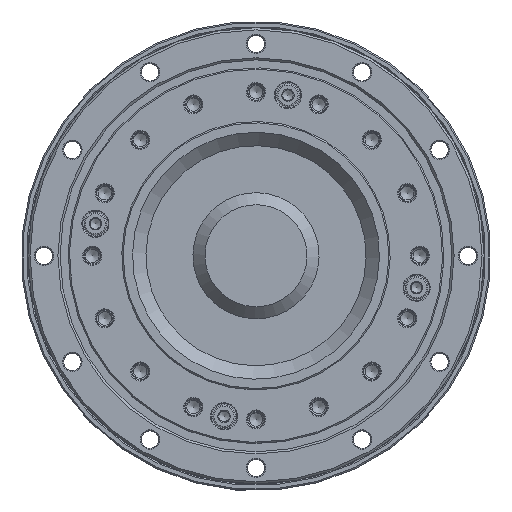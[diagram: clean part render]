
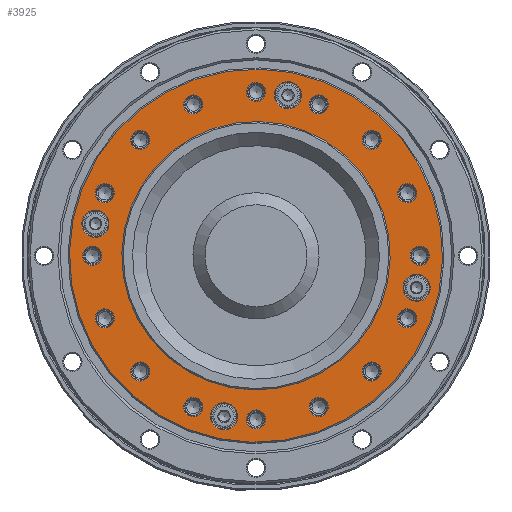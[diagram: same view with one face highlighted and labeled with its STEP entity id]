
A CAD part, top view. The second image highlights one B-rep face of the part: STEP entity #3925.
In plain terms, the highlighted planar face has unit normal (0, 0, 1).
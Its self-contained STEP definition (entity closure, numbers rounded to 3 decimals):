
#3925=ADVANCED_FACE('',(#5726,#5727,#5728,#5729,#5730,#5731,#5732,#5733,
#5734,#5735,#5736,#5737,#5738,#5739,#5740,#5741,#5742,#5743,#5744,#5745,
#5746,#5747),#4397,.T.);
#4397=PLANE('',#17122);
#5726=FACE_BOUND('',#7759,.T.);
#5727=FACE_BOUND('',#7760,.T.);
#5728=FACE_BOUND('',#7761,.T.);
#5729=FACE_BOUND('',#7762,.T.);
#5730=FACE_BOUND('',#7763,.T.);
#5731=FACE_BOUND('',#7764,.T.);
#5732=FACE_BOUND('',#7765,.T.);
#5733=FACE_BOUND('',#7766,.T.);
#5734=FACE_BOUND('',#7767,.T.);
#5735=FACE_BOUND('',#7768,.T.);
#5736=FACE_BOUND('',#7769,.T.);
#5737=FACE_BOUND('',#7770,.T.);
#5738=FACE_BOUND('',#7771,.T.);
#5739=FACE_BOUND('',#7772,.T.);
#5740=FACE_BOUND('',#7773,.T.);
#5741=FACE_BOUND('',#7774,.T.);
#5742=FACE_BOUND('',#7775,.T.);
#5743=FACE_BOUND('',#7776,.T.);
#5744=FACE_BOUND('',#7777,.T.);
#5745=FACE_BOUND('',#7778,.T.);
#5746=FACE_BOUND('',#7779,.T.);
#5747=FACE_BOUND('',#7780,.T.);
#7759=EDGE_LOOP('',(#10731));
#7760=EDGE_LOOP('',(#10732));
#7761=EDGE_LOOP('',(#10733));
#7762=EDGE_LOOP('',(#10734));
#7763=EDGE_LOOP('',(#10735));
#7764=EDGE_LOOP('',(#10736));
#7765=EDGE_LOOP('',(#10737));
#7766=EDGE_LOOP('',(#10738));
#7767=EDGE_LOOP('',(#10739));
#7768=EDGE_LOOP('',(#10740));
#7769=EDGE_LOOP('',(#10741));
#7770=EDGE_LOOP('',(#10742));
#7771=EDGE_LOOP('',(#10743));
#7772=EDGE_LOOP('',(#10744));
#7773=EDGE_LOOP('',(#10745));
#7774=EDGE_LOOP('',(#10746));
#7775=EDGE_LOOP('',(#10747));
#7776=EDGE_LOOP('',(#10748));
#7777=EDGE_LOOP('',(#10749));
#7778=EDGE_LOOP('',(#10750));
#7779=EDGE_LOOP('',(#10751));
#7780=EDGE_LOOP('',(#10752));
#10731=ORIENTED_EDGE('',*,*,#13937,.T.);
#10732=ORIENTED_EDGE('',*,*,#13938,.T.);
#10733=ORIENTED_EDGE('',*,*,#13939,.T.);
#10734=ORIENTED_EDGE('',*,*,#13940,.T.);
#10735=ORIENTED_EDGE('',*,*,#13941,.T.);
#10736=ORIENTED_EDGE('',*,*,#13942,.T.);
#10737=ORIENTED_EDGE('',*,*,#13943,.T.);
#10738=ORIENTED_EDGE('',*,*,#13944,.T.);
#10739=ORIENTED_EDGE('',*,*,#13945,.T.);
#10740=ORIENTED_EDGE('',*,*,#13946,.T.);
#10741=ORIENTED_EDGE('',*,*,#13947,.T.);
#10742=ORIENTED_EDGE('',*,*,#13948,.T.);
#10743=ORIENTED_EDGE('',*,*,#13949,.T.);
#10744=ORIENTED_EDGE('',*,*,#13950,.T.);
#10745=ORIENTED_EDGE('',*,*,#13951,.T.);
#10746=ORIENTED_EDGE('',*,*,#13952,.T.);
#10747=ORIENTED_EDGE('',*,*,#13953,.T.);
#10748=ORIENTED_EDGE('',*,*,#13954,.T.);
#10749=ORIENTED_EDGE('',*,*,#13955,.T.);
#10750=ORIENTED_EDGE('',*,*,#13956,.T.);
#10751=ORIENTED_EDGE('',*,*,#13957,.T.);
#10752=ORIENTED_EDGE('',*,*,#13936,.F.);
#12421=VERTEX_POINT('',#30680);
#12422=VERTEX_POINT('',#30683);
#12423=VERTEX_POINT('',#30685);
#12424=VERTEX_POINT('',#30687);
#12425=VERTEX_POINT('',#30689);
#12426=VERTEX_POINT('',#30691);
#12427=VERTEX_POINT('',#30693);
#12428=VERTEX_POINT('',#30695);
#12429=VERTEX_POINT('',#30697);
#12430=VERTEX_POINT('',#30699);
#12431=VERTEX_POINT('',#30701);
#12432=VERTEX_POINT('',#30703);
#12433=VERTEX_POINT('',#30705);
#12434=VERTEX_POINT('',#30707);
#12435=VERTEX_POINT('',#30709);
#12436=VERTEX_POINT('',#30711);
#12437=VERTEX_POINT('',#30713);
#12438=VERTEX_POINT('',#30715);
#12439=VERTEX_POINT('',#30717);
#12440=VERTEX_POINT('',#30719);
#12441=VERTEX_POINT('',#30721);
#12442=VERTEX_POINT('',#30723);
#13936=EDGE_CURVE('',#12421,#12421,#15141,.T.);
#13937=EDGE_CURVE('',#12422,#12422,#15142,.T.);
#13938=EDGE_CURVE('',#12423,#12423,#15143,.T.);
#13939=EDGE_CURVE('',#12424,#12424,#15144,.T.);
#13940=EDGE_CURVE('',#12425,#12425,#15145,.T.);
#13941=EDGE_CURVE('',#12426,#12426,#15146,.T.);
#13942=EDGE_CURVE('',#12427,#12427,#15147,.T.);
#13943=EDGE_CURVE('',#12428,#12428,#15148,.T.);
#13944=EDGE_CURVE('',#12429,#12429,#15149,.T.);
#13945=EDGE_CURVE('',#12430,#12430,#15150,.T.);
#13946=EDGE_CURVE('',#12431,#12431,#15151,.T.);
#13947=EDGE_CURVE('',#12432,#12432,#15152,.T.);
#13948=EDGE_CURVE('',#12433,#12433,#15153,.T.);
#13949=EDGE_CURVE('',#12434,#12434,#15154,.T.);
#13950=EDGE_CURVE('',#12435,#12435,#15155,.T.);
#13951=EDGE_CURVE('',#12436,#12436,#15156,.T.);
#13952=EDGE_CURVE('',#12437,#12437,#15157,.T.);
#13953=EDGE_CURVE('',#12438,#12438,#15158,.T.);
#13954=EDGE_CURVE('',#12439,#12439,#15159,.T.);
#13955=EDGE_CURVE('',#12440,#12440,#15160,.T.);
#13956=EDGE_CURVE('',#12441,#12441,#15161,.T.);
#13957=EDGE_CURVE('',#12442,#12442,#15162,.T.);
#15141=CIRCLE('',#17099,69.5);
#15142=CIRCLE('',#17101,5.05);
#15143=CIRCLE('',#17102,5.05);
#15144=CIRCLE('',#17103,5.05);
#15145=CIRCLE('',#17104,5.05);
#15146=CIRCLE('',#17105,3.55);
#15147=CIRCLE('',#17106,3.55);
#15148=CIRCLE('',#17107,3.55);
#15149=CIRCLE('',#17108,3.55);
#15150=CIRCLE('',#17109,3.55);
#15151=CIRCLE('',#17110,3.55);
#15152=CIRCLE('',#17111,3.55);
#15153=CIRCLE('',#17112,3.55);
#15154=CIRCLE('',#17113,3.55);
#15155=CIRCLE('',#17114,3.55);
#15156=CIRCLE('',#17115,3.55);
#15157=CIRCLE('',#17116,3.55);
#15158=CIRCLE('',#17117,3.55);
#15159=CIRCLE('',#17118,3.55);
#15160=CIRCLE('',#17119,3.55);
#15161=CIRCLE('',#17120,3.55);
#15162=CIRCLE('',#17121,50.);
#17099=AXIS2_PLACEMENT_3D('',#30679,#21245,#21246);
#17101=AXIS2_PLACEMENT_3D('',#30682,#21249,#21250);
#17102=AXIS2_PLACEMENT_3D('',#30684,#21251,#21252);
#17103=AXIS2_PLACEMENT_3D('',#30686,#21253,#21254);
#17104=AXIS2_PLACEMENT_3D('',#30688,#21255,#21256);
#17105=AXIS2_PLACEMENT_3D('',#30690,#21257,#21258);
#17106=AXIS2_PLACEMENT_3D('',#30692,#21259,#21260);
#17107=AXIS2_PLACEMENT_3D('',#30694,#21261,#21262);
#17108=AXIS2_PLACEMENT_3D('',#30696,#21263,#21264);
#17109=AXIS2_PLACEMENT_3D('',#30698,#21265,#21266);
#17110=AXIS2_PLACEMENT_3D('',#30700,#21267,#21268);
#17111=AXIS2_PLACEMENT_3D('',#30702,#21269,#21270);
#17112=AXIS2_PLACEMENT_3D('',#30704,#21271,#21272);
#17113=AXIS2_PLACEMENT_3D('',#30706,#21273,#21274);
#17114=AXIS2_PLACEMENT_3D('',#30708,#21275,#21276);
#17115=AXIS2_PLACEMENT_3D('',#30710,#21277,#21278);
#17116=AXIS2_PLACEMENT_3D('',#30712,#21279,#21280);
#17117=AXIS2_PLACEMENT_3D('',#30714,#21281,#21282);
#17118=AXIS2_PLACEMENT_3D('',#30716,#21283,#21284);
#17119=AXIS2_PLACEMENT_3D('',#30718,#21285,#21286);
#17120=AXIS2_PLACEMENT_3D('',#30720,#21287,#21288);
#17121=AXIS2_PLACEMENT_3D('',#30722,#21289,#21290);
#17122=AXIS2_PLACEMENT_3D('',#30724,#21291,#21292);
#21245=DIRECTION('',(0.,0.,-1.));
#21246=DIRECTION('',(-1.,0.,0.));
#21249=DIRECTION('',(0.,0.,-1.));
#21250=DIRECTION('',(1.,0.,0.));
#21251=DIRECTION('',(0.,0.,-1.));
#21252=DIRECTION('',(1.,0.,0.));
#21253=DIRECTION('',(0.,0.,-1.));
#21254=DIRECTION('',(1.,0.,0.));
#21255=DIRECTION('',(0.,0.,-1.));
#21256=DIRECTION('',(1.,0.,0.));
#21257=DIRECTION('',(0.,0.,-1.));
#21258=DIRECTION('',(1.,0.,0.));
#21259=DIRECTION('',(0.,0.,-1.));
#21260=DIRECTION('',(1.,0.,0.));
#21261=DIRECTION('',(0.,0.,-1.));
#21262=DIRECTION('',(1.,0.,0.));
#21263=DIRECTION('',(0.,0.,-1.));
#21264=DIRECTION('',(1.,0.,0.));
#21265=DIRECTION('',(0.,0.,-1.));
#21266=DIRECTION('',(1.,0.,0.));
#21267=DIRECTION('',(0.,0.,-1.));
#21268=DIRECTION('',(1.,0.,0.));
#21269=DIRECTION('',(0.,0.,-1.));
#21270=DIRECTION('',(1.,0.,0.));
#21271=DIRECTION('',(0.,0.,-1.));
#21272=DIRECTION('',(1.,0.,0.));
#21273=DIRECTION('',(0.,0.,-1.));
#21274=DIRECTION('',(1.,0.,0.));
#21275=DIRECTION('',(0.,0.,-1.));
#21276=DIRECTION('',(1.,0.,0.));
#21277=DIRECTION('',(0.,0.,-1.));
#21278=DIRECTION('',(1.,0.,0.));
#21279=DIRECTION('',(0.,0.,-1.));
#21280=DIRECTION('',(1.,0.,0.));
#21281=DIRECTION('',(0.,0.,-1.));
#21282=DIRECTION('',(1.,0.,0.));
#21283=DIRECTION('',(0.,0.,-1.));
#21284=DIRECTION('',(1.,0.,0.));
#21285=DIRECTION('',(0.,0.,-1.));
#21286=DIRECTION('',(1.,0.,0.));
#21287=DIRECTION('',(0.,0.,-1.));
#21288=DIRECTION('',(1.,0.,0.));
#21289=DIRECTION('',(0.,0.,-1.));
#21290=DIRECTION('',(-1.,0.,0.));
#21291=DIRECTION('',(0.,0.,1.));
#21292=DIRECTION('',(1.,0.,0.));
#30679=CARTESIAN_POINT('',(0.,0.,13.));
#30680=CARTESIAN_POINT('',(-69.5,0.,13.));
#30682=CARTESIAN_POINT('',(-61.,0.,13.));
#30683=CARTESIAN_POINT('',(-55.95,0.,13.));
#30684=CARTESIAN_POINT('',(0.,-61.,13.));
#30685=CARTESIAN_POINT('',(5.05,-61.,13.));
#30686=CARTESIAN_POINT('',(0.,61.,13.));
#30687=CARTESIAN_POINT('',(5.05,61.,13.));
#30688=CARTESIAN_POINT('',(61.,0.,13.));
#30689=CARTESIAN_POINT('',(66.05,0.,13.));
#30690=CARTESIAN_POINT('',(-33.89,50.72,13.));
#30691=CARTESIAN_POINT('',(-30.34,50.72,13.));
#30692=CARTESIAN_POINT('',(-59.828,11.901,13.));
#30693=CARTESIAN_POINT('',(-56.278,11.901,13.));
#30694=CARTESIAN_POINT('',(-50.72,33.89,13.));
#30695=CARTESIAN_POINT('',(-47.17,33.89,13.));
#30696=CARTESIAN_POINT('',(-59.828,-11.901,13.));
#30697=CARTESIAN_POINT('',(-56.278,-11.901,13.));
#30698=CARTESIAN_POINT('',(-50.72,-33.89,13.));
#30699=CARTESIAN_POINT('',(-47.17,-33.89,13.));
#30700=CARTESIAN_POINT('',(-33.89,-50.72,13.));
#30701=CARTESIAN_POINT('',(-30.34,-50.72,13.));
#30702=CARTESIAN_POINT('',(-11.901,-59.828,13.));
#30703=CARTESIAN_POINT('',(-8.351,-59.828,13.));
#30704=CARTESIAN_POINT('',(11.901,-59.828,13.));
#30705=CARTESIAN_POINT('',(15.451,-59.828,13.));
#30706=CARTESIAN_POINT('',(33.89,-50.72,13.));
#30707=CARTESIAN_POINT('',(37.44,-50.72,13.));
#30708=CARTESIAN_POINT('',(50.72,-33.89,13.));
#30709=CARTESIAN_POINT('',(54.27,-33.89,13.));
#30710=CARTESIAN_POINT('',(59.828,-11.901,13.));
#30711=CARTESIAN_POINT('',(63.378,-11.901,13.));
#30712=CARTESIAN_POINT('',(59.828,11.901,13.));
#30713=CARTESIAN_POINT('',(63.378,11.901,13.));
#30714=CARTESIAN_POINT('',(33.89,50.72,13.));
#30715=CARTESIAN_POINT('',(37.44,50.72,13.));
#30716=CARTESIAN_POINT('',(50.72,33.89,13.));
#30717=CARTESIAN_POINT('',(54.27,33.89,13.));
#30718=CARTESIAN_POINT('',(-11.901,59.828,13.));
#30719=CARTESIAN_POINT('',(-8.351,59.828,13.));
#30720=CARTESIAN_POINT('',(11.901,59.828,13.));
#30721=CARTESIAN_POINT('',(15.451,59.828,13.));
#30722=CARTESIAN_POINT('',(0.,0.,13.));
#30723=CARTESIAN_POINT('',(-50.,0.,13.));
#30724=CARTESIAN_POINT('',(69.5,0.,13.));
